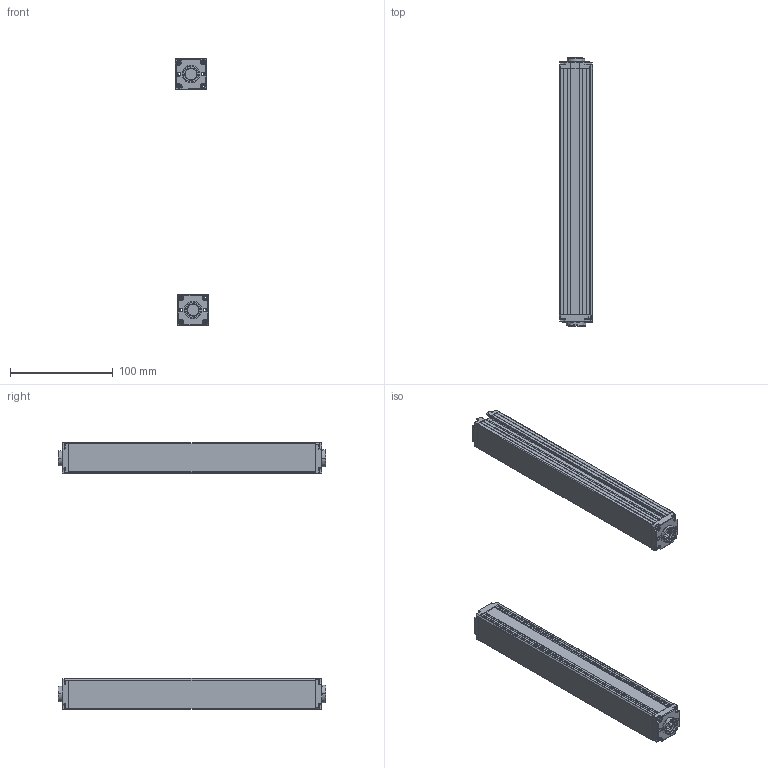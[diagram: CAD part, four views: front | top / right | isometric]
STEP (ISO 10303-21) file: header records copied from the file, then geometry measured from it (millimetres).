
FILE_DESCRIPTION (( 'STEP AP203' ), '1' );
FILE_NAME ('ZDA2210-240.STEP', '2022-08-30T03:38:23', ( 'Windows 蚚誧' ), ( 'Organization' ), 'SwSTEP 2.0', 'SolidWorks 2020', '' );
FILE_SCHEMA (( 'CONFIG_CONTROL_DESIGN' ));
Length unit declared in the file: millimetre
Products named in the file (5): 錨璃8 - 萵掛 (2); ZDA2210-240; 錨璃1; 錨璃8; 錨璃10
Assembly tree (8 placements, depth 2):
  ZDA2210-240
    錨璃1  x2
    錨璃8  x2
    錨璃8 - 萵掛 (2)  x2
    錨璃10  x2
Bounding box: 32.36 x 261.4 x 260.35 mm (x, y, z)
Volume: 161288.2 mm3; surface area: 173219.4 mm2
Topology: 8 solids, 8 shells, 1032 faces, 2690 edges, 1668 vertices
Faces by surface type: plane 464, cylinder 310, cone 120, bspline 58, torus 48, sphere 32
Entity records: 17901 total; most frequent: CARTESIAN_POINT 4731, ORIENTED_EDGE 2666, DIRECTION 2616, EDGE_CURVE 1333, AXIS2_PLACEMENT_3D 894, VERTEX_POINT 834, LINE 828, VECTOR 828
